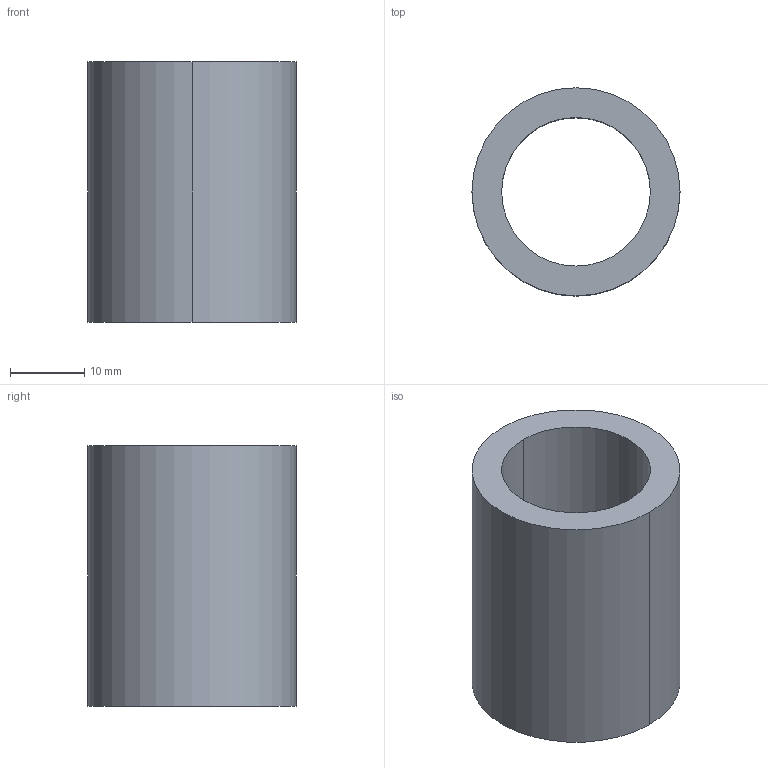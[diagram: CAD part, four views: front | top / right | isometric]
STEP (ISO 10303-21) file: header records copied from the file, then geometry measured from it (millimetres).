
FILE_DESCRIPTION(/* description */ (''),/* implementation_level */ '2;1');
FILE_NAME(/* name */ '3d_tgbm20-35_00325_r00.stp',/* time_stamp */ '2011-01-10T14:09:03+09:00',/* author */ ('MISUMI'),/* organization */ (''),/* preprocessor_version */ 'ST-DEVELOPER v11',/* originating_system */ 'UGS - NX 5.0',/* authorisation */ '');
FILE_SCHEMA (('CONFIG_CONTROL_DESIGN'));
Length unit declared in the file: millimetre
Products named in the file (1): 3d_tgbm20-35_00325_r00
Bounding box: 28 x 28 x 35 mm (x, y, z)
Volume: 10555.8 mm3; surface area: 5881.1 mm2
Topology: 1 solids, 1 shells, 6 faces, 12 edges, 8 vertices
Faces by surface type: cylinder 4, plane 2
Entity records: 254 total; most frequent: DIRECTION 34, CARTESIAN_POINT 27, ORIENTED_EDGE 24, AXIS2_PLACEMENT_3D 15, EDGE_CURVE 12, EDGE_LOOP 8, CIRCLE 8, VERTEX_POINT 8
